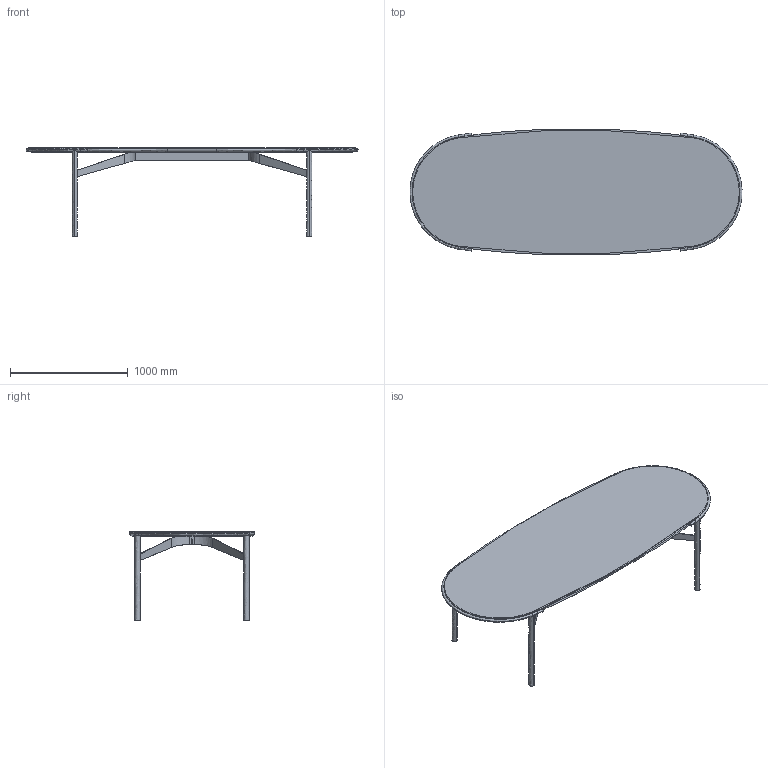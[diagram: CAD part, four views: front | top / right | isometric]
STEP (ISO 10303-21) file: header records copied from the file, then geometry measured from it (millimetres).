
FILE_DESCRIPTION(/* description */ (''),/* implementation_level */ '2;1');
FILE_NAME(/* name */ 'MDLI2M~P',/* time_stamp */ '2024-07-04T11:20:48+02:00',/* author */ (''),/* organization */ (''),/* preprocessor_version */ 'ST-DEVELOPER v15',/* originating_system */ '',/* authorisation */ '');
FILE_SCHEMA (('AUTOMOTIVE_DESIGN'));
Length unit declared in the file: centimetre
Products named in the file (1): Document
Bounding box: 2817.34 x 1059.31 x 754.39 mm (x, y, z)
Volume: 16176441.2 mm3; surface area: 12145139.6 mm2
Topology: 14 solids, 17 shells, 294 faces, 838 edges, 566 vertices
Faces by surface type: bspline 164, plane 130
Entity records: 15732 total; most frequent: CARTESIAN_POINT 10672, ORIENTED_EDGE 1640, EDGE_CURVE 838, VERTEX_POINT 566, B_SPLINE_CURVE_WITH_KNOTS 437, EDGE_LOOP 340, ADVANCED_FACE 294, FACE_OUTER_BOUND 294
